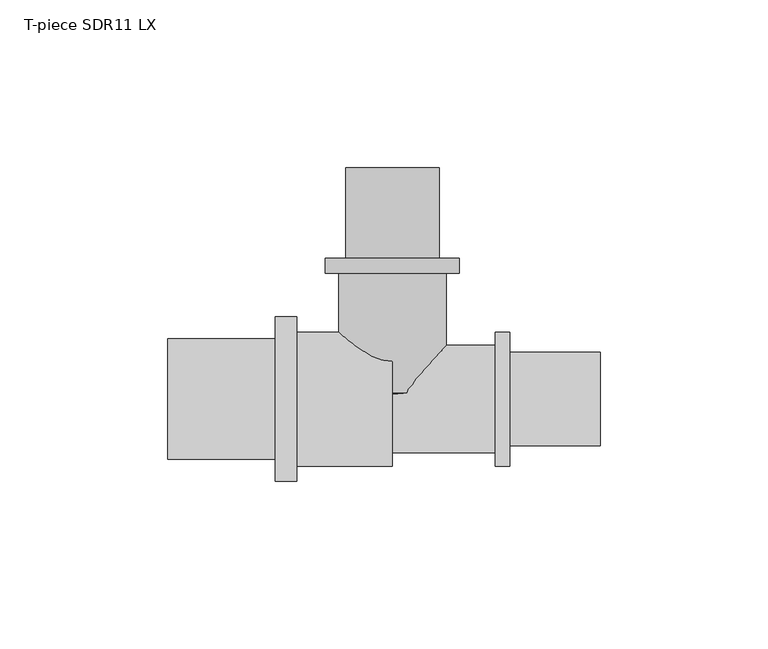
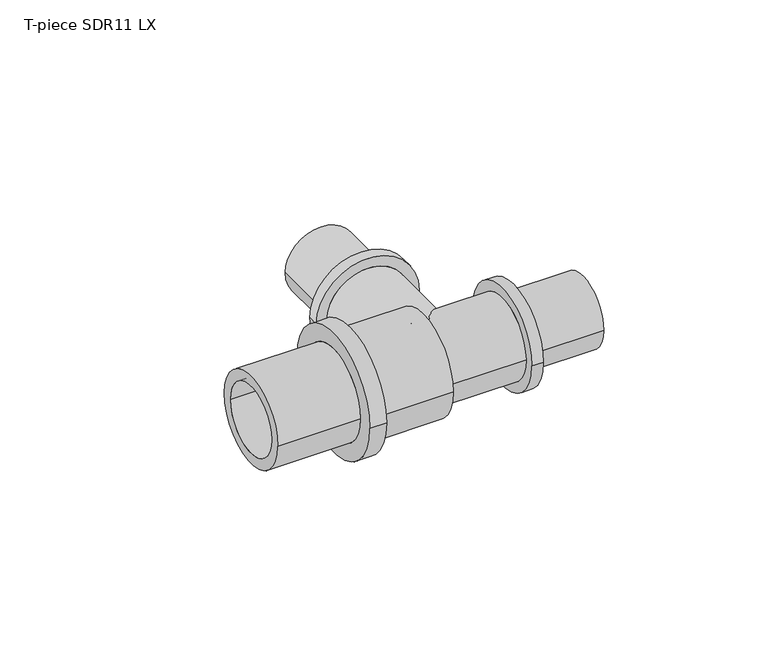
"""IFC4 building model written with IfcOpenShell, lengths in millimetres: pipe fitting geometry, T-piece SDR11 LX : T-piece LX SDR11 LX."""

from ifc_helpers import new_model, si_unit, point, frame, origin, place, context, project, spatial, polyline, circle_curve, ellipse_curve, trimmed, source, transform, mapped, element, save
from ifc_brep_helpers import plane_surface, cylinder_surface, revolved_surface, advanced_brep


def t_piece_sdr11_lx_0c38f34f(model_context):
    return source(origin(), model_context, "Body", "AdvancedBrep", [
        advanced_brep(
        [(16.0, 1.856228, 0.0), (-16.0, 1.856228, 0.0), (-16.0, 37.5, 0.0), (16.0, 37.5, 0.0), (11.2, 69.0, 0.0), (-11.2, 69.0, 0.0), (-11.2, 0.0, 0.0), (11.2, 0.0, 0.0), (13.95, 42.0, 0.0), (-13.95, 42.0, 0.0), (-13.95, 69.0, 0.0), (13.95, 69.0, 0.0), (20.0, 37.5, 0.0), (-20.0, 37.5, 0.0), (-20.0, 42.0, 0.0), (20.0, 42.0, 0.0)],
        [
            (0, 1, circle_curve(frame((0.0, 1.856228, 0.0), z_axis=(0.0, 1.0, 0.0), x_axis=(-1.0, 0.0, 0.0)), 16.0)),
            (1, 2),
            (2, 3, circle_curve(frame((0.0, 37.5, 0.0), z_axis=(0.0, -1.0, 0.0), x_axis=(-1.0, 0.0, 0.0)), 16.0)),
            (3, 0),
            (4, 5, circle_curve(frame((0.0, 69.0, 0.0), z_axis=(0.0, 1.0, 0.0), x_axis=(-1.0, 0.0, 0.0)), 11.2)),
            (5, 6),
            (6, 7, circle_curve(frame((0.0, 0.0, 0.0), z_axis=(0.0, -1.0, 0.0), x_axis=(-1.0, 0.0, 0.0)), 11.2)),
            (7, 4),
            (8, 9, circle_curve(frame((0.0, 42.0, 0.0), z_axis=(0.0, 1.0, 0.0), x_axis=(-1.0, 0.0, 0.0)), 13.95)),
            (9, 10),
            (10, 11, circle_curve(frame((0.0, 69.0, 0.0), z_axis=(0.0, -1.0, 0.0), x_axis=(-1.0, 0.0, 0.0)), 13.95)),
            (11, 8),
            (12, 13, circle_curve(frame((0.0, 37.5, 0.0), z_axis=(0.0, 1.0, 0.0), x_axis=(-1.0, 0.0, 0.0)), 20.0)),
            (13, 14),
            (14, 15, circle_curve(frame((0.0, 42.0, 0.0), z_axis=(0.0, -1.0, 0.0), x_axis=(-1.0, 0.0, 0.0)), 20.0)),
            (15, 12),
            (12, 13, circle_curve(frame((0.0, 37.5, 0.0), z_axis=(0.0, -1.0, 0.0), x_axis=(1.0, 0.0, 0.0)), 20.0)),
            (2, 3, circle_curve(frame((0.0, 37.5, 0.0), z_axis=(0.0, 1.0, 0.0), x_axis=(1.0, 0.0, 0.0)), 16.0)),
            (1, 0, circle_curve(frame((0.0, 1.856228, 0.0), z_axis=(0.0, 1.0, 0.0), x_axis=(1.0, 0.0, 0.0)), 16.0)),
            (5, 4, circle_curve(frame((0.0, 69.0, 0.0), z_axis=(0.0, 1.0, 0.0), x_axis=(1.0, 0.0, 0.0)), 11.2)),
            (7, 6, circle_curve(frame((0.0, 0.0, 0.0), z_axis=(0.0, -1.0, 0.0), x_axis=(1.0, 0.0, 0.0)), 11.2)),
            (10, 11, circle_curve(frame((0.0, 69.0, 0.0), z_axis=(0.0, 1.0, 0.0), x_axis=(1.0, 0.0, 0.0)), 13.95)),
            (9, 8, circle_curve(frame((0.0, 42.0, 0.0), z_axis=(0.0, 1.0, 0.0), x_axis=(1.0, 0.0, 0.0)), 13.95)),
            (14, 15, circle_curve(frame((0.0, 42.0, 0.0), z_axis=(0.0, 1.0, 0.0), x_axis=(1.0, 0.0, 0.0)), 20.0)),
            (6, 1, circle_curve(frame((-6.4462802, 19.4268409, 0.0), z_axis=(0.0, 0.0, -1.0), x_axis=(0.0, -1.0, 0.0)), 20.0)),
            (0, 7, circle_curve(frame((6.4462802, 19.4268409, 0.0), z_axis=(0.0, 0.0, -1.0), x_axis=(0.0, -1.0, 0.0)), 20.0)),
        ],
        [
            cylinder_surface(frame((0.0, 0.0, 0.0), z_axis=(0.0, -1.0, 0.0), x_axis=(-1.0, 0.0, 0.0)), 16.0),
            revolved_surface(polyline([(-11.2, 0.0, 0.0), (-11.2, 69.0, 0.0)]), (0.0, 0.0, 0.0), (0.0, -1.0, 0.0)),
            cylinder_surface(frame((0.0, 0.0, 0.0), z_axis=(0.0, -1.0, 0.0), x_axis=(-1.0, 0.0, 0.0)), 13.95),
            cylinder_surface(frame((0.0, 0.0, 0.0), z_axis=(0.0, -1.0, 0.0), x_axis=(-1.0, 0.0, 0.0)), 20.0),
            plane_surface(frame((0.0, 37.5, 0.0), z_axis=(0.0, -1.0, 0.0), x_axis=(1.0, 0.0, 0.0))),
            cylinder_surface(frame((0.0, 0.0, 0.0), z_axis=(0.0, -1.0, 0.0), x_axis=(1.0, 0.0, 0.0)), 16.0),
            revolved_surface(polyline([(11.2, 0.0, 0.0), (11.2, 69.0, 0.0)]), (0.0, 0.0, 0.0), (0.0, -1.0, 0.0)),
            plane_surface(frame((0.0, 69.0, 0.0), z_axis=(0.0, 1.0, 0.0), x_axis=(1.0, 0.0, 0.0))),
            cylinder_surface(frame((0.0, 0.0, 0.0), z_axis=(0.0, -1.0, 0.0), x_axis=(1.0, 0.0, 0.0)), 13.95),
            plane_surface(frame((0.0, 42.0, 0.0), z_axis=(0.0, 1.0, 0.0), x_axis=(1.0, 0.0, 0.0))),
            cylinder_surface(frame((0.0, 0.0, 0.0), z_axis=(0.0, -1.0, 0.0), x_axis=(1.0, 0.0, 0.0)), 20.0),
            revolved_surface(trimmed(ellipse_curve(frame((-6.4462802, 19.4268409, 0.0), z_axis=(0.0, 0.0, 1.0), x_axis=(0.0, -1.0, 0.0)), 20.0, 20.0), [point((-16.0, 1.856228, 0.0))], [point((-11.2, 0.0, 0.0))], True, "CARTESIAN"), (0.0, 0.0, 0.0), (0.0, -1.0, 0.0)),
            revolved_surface(trimmed(ellipse_curve(frame((6.4462802, 19.4268409, 0.0), z_axis=(0.0, 0.0, -1.0), x_axis=(0.0, -1.0, 0.0)), 20.0, 20.0), [point((16.0, 1.856228, 0.0))], [point((11.2, 0.0, 0.0))], True, "CARTESIAN"), (0.0, 0.0, 0.0), (0.0, -1.0, 0.0)),
        ],
        [
            (0, [[1, 2, 3, 4]]),
            (1, [[5, 6, 7, 8]]),
            (2, [[9, 10, 11, 12]]),
            (3, [[13, 14, 15, 16]]),
            (4, [[17, -13], [18, -3]]),
            (5, [[19, -4, -18, -2]]),
            (6, [[20, -8, 21, -6]]),
            (7, [[22, -11], [-20, -5]]),
            (8, [[23, -12, -22, -10]]),
            (9, [[24, -15], [-23, -9]]),
            (10, [[-17, -16, -24, -14]]),
            (11, [[-7, 25, -1, 26]]),
            (12, [[-21, -26, -19, -25]]),
        ],
    ),
        advanced_brep(
        [(30.6, 16.0, 0.0), (30.6, -16.0, 0.0), (0.0, -16.0, 0.0), (0.0, 16.0, 0.0), (0.0, 11.2, 0.0), (0.0, -11.2, 0.0), (62.0, -11.2, 0.0), (62.0, 11.2, 0.0), (62.0, 13.95, 0.0), (62.0, -13.95, 0.0), (35.0, -13.95, 0.0), (35.0, 13.95, 0.0), (35.0, 20.0, 0.0), (35.0, -20.0, 0.0), (30.6, -20.0, 0.0), (30.6, 20.0, 0.0)],
        [
            (0, 1, circle_curve(frame((30.6, 0.0, 0.0), z_axis=(-1.0, 0.0, 0.0), x_axis=(0.0, -1.0, 0.0)), 16.0)),
            (1, 2),
            (2, 3, circle_curve(frame((0.0, 0.0, 0.0), z_axis=(1.0, 0.0, 0.0), x_axis=(0.0, -1.0, 0.0)), 16.0)),
            (3, 0),
            (4, 5, circle_curve(frame((0.0, 0.0, 0.0), z_axis=(-1.0, 0.0, 0.0), x_axis=(0.0, -1.0, 0.0)), 11.2)),
            (5, 6),
            (6, 7, circle_curve(frame((62.0, 0.0, 0.0), z_axis=(1.0, 0.0, 0.0), x_axis=(0.0, -1.0, 0.0)), 11.2)),
            (7, 4),
            (8, 9, circle_curve(frame((62.0, 0.0, 0.0), z_axis=(-1.0, 0.0, 0.0), x_axis=(0.0, -1.0, 0.0)), 13.95)),
            (9, 10),
            (10, 11, circle_curve(frame((35.0, 0.0, 0.0), z_axis=(1.0, 0.0, 0.0), x_axis=(0.0, -1.0, 0.0)), 13.95)),
            (11, 8),
            (12, 13, circle_curve(frame((35.0, 0.0, 0.0), z_axis=(-1.0, 0.0, 0.0), x_axis=(0.0, -1.0, 0.0)), 20.0)),
            (13, 14),
            (14, 15, circle_curve(frame((30.6, 0.0, 0.0), z_axis=(1.0, 0.0, 0.0), x_axis=(0.0, -1.0, 0.0)), 20.0)),
            (15, 12),
            (14, 15, circle_curve(frame((30.6, 0.0, 0.0), z_axis=(-1.0, 0.0, 0.0), x_axis=(0.0, 1.0, 0.0)), 20.0)),
            (0, 1, circle_curve(frame((30.6, 0.0, 0.0), z_axis=(1.0, 0.0, 0.0), x_axis=(0.0, 1.0, 0.0)), 16.0)),
            (3, 2, circle_curve(frame((0.0, 0.0, 0.0), z_axis=(1.0, 0.0, 0.0), x_axis=(0.0, 1.0, 0.0)), 16.0)),
            (4, 5, circle_curve(frame((0.0, 0.0, 0.0), z_axis=(1.0, 0.0, 0.0), x_axis=(0.0, 1.0, 0.0)), 11.2)),
            (7, 6, circle_curve(frame((62.0, 0.0, 0.0), z_axis=(1.0, 0.0, 0.0), x_axis=(0.0, 1.0, 0.0)), 11.2)),
            (8, 9, circle_curve(frame((62.0, 0.0, 0.0), z_axis=(1.0, 0.0, 0.0), x_axis=(0.0, 1.0, 0.0)), 13.95)),
            (11, 10, circle_curve(frame((35.0, 0.0, 0.0), z_axis=(1.0, 0.0, 0.0), x_axis=(0.0, 1.0, 0.0)), 13.95)),
            (12, 13, circle_curve(frame((35.0, 0.0, 0.0), z_axis=(1.0, 0.0, 0.0), x_axis=(0.0, 1.0, 0.0)), 20.0)),
        ],
        [
            cylinder_surface(frame((0.0, 0.0, 0.0), z_axis=(1.0, 0.0, 0.0), x_axis=(0.0, -1.0, 0.0)), 16.0),
            revolved_surface(polyline([(62.0, -11.2, 0.0), (0.0, -11.2, 0.0)]), (0.0, 0.0, 0.0), (1.0, 0.0, 0.0)),
            cylinder_surface(frame((0.0, 0.0, 0.0), z_axis=(1.0, 0.0, 0.0), x_axis=(0.0, -1.0, 0.0)), 13.95),
            cylinder_surface(frame((0.0, 0.0, 0.0), z_axis=(1.0, 0.0, 0.0), x_axis=(0.0, -1.0, 0.0)), 20.0),
            plane_surface(frame((30.6, 0.0, 0.0), z_axis=(-1.0, 0.0, 0.0), x_axis=(0.0, 1.0, 0.0))),
            cylinder_surface(frame((0.0, 0.0, 0.0), z_axis=(1.0, 0.0, 0.0), x_axis=(0.0, 1.0, 0.0)), 16.0),
            plane_surface(frame((0.0, 0.0, 0.0), z_axis=(-1.0, 0.0, 0.0), x_axis=(0.0, 1.0, 0.0))),
            revolved_surface(polyline([(62.0, 11.2, 0.0), (0.0, 11.2, 0.0)]), (0.0, 0.0, 0.0), (1.0, 0.0, 0.0)),
            plane_surface(frame((62.0, 0.0, 0.0), z_axis=(1.0, 0.0, 0.0), x_axis=(0.0, 1.0, 0.0))),
            cylinder_surface(frame((0.0, 0.0, 0.0), z_axis=(1.0, 0.0, 0.0), x_axis=(0.0, 1.0, 0.0)), 13.95),
            plane_surface(frame((35.0, 0.0, 0.0), z_axis=(1.0, 0.0, 0.0), x_axis=(0.0, 1.0, 0.0))),
            cylinder_surface(frame((0.0, 0.0, 0.0), z_axis=(1.0, 0.0, 0.0), x_axis=(0.0, 1.0, 0.0)), 20.0),
        ],
        [
            (0, [[1, 2, 3, 4]]),
            (1, [[5, 6, 7, 8]]),
            (2, [[9, 10, 11, 12]]),
            (3, [[13, 14, 15, 16]]),
            (4, [[17, -15], [18, -1]]),
            (5, [[-18, -4, 19, -2]]),
            (6, [[-19, -3], [20, -5]]),
            (7, [[-20, -8, 21, -6]]),
            (8, [[22, -9], [-21, -7]]),
            (9, [[-22, -12, 23, -10]]),
            (10, [[24, -13], [-23, -11]]),
            (11, [[-24, -16, -17, -14]]),
        ],
    ),
        advanced_brep(
        [(0.0, 20.0, 0.0), (0.0, -20.0, 0.0), (-28.5, -20.0, 0.0), (-28.5, 20.0, 0.0), (-67.0, 13.75, 0.0), (-67.0, -13.75, 0.0), (0.0, -13.75, 0.0), (0.0, 13.75, 0.0), (-35.0, 18.0, 0.0), (-35.0, -18.0, 0.0), (-67.0, -18.0, 0.0), (-67.0, 18.0, 0.0), (-28.5, 24.5, 0.0), (-28.5, -24.5, 0.0), (-35.0, -24.5, 0.0), (-35.0, 24.5, 0.0)],
        [
            (0, 1, circle_curve(frame((0.0, 0.0, 0.0), z_axis=(-1.0, 0.0, 0.0), x_axis=(0.0, -1.0, 0.0)), 20.0)),
            (1, 2),
            (2, 3, circle_curve(frame((-28.5, 0.0, 0.0), z_axis=(1.0, 0.0, 0.0), x_axis=(0.0, -1.0, 0.0)), 20.0)),
            (3, 0),
            (4, 5, circle_curve(frame((-67.0, 0.0, 0.0), z_axis=(-1.0, 0.0, 0.0), x_axis=(0.0, -1.0, 0.0)), 13.75)),
            (5, 6),
            (6, 7, circle_curve(frame((0.0, 0.0, 0.0), z_axis=(1.0, 0.0, 0.0), x_axis=(0.0, -1.0, 0.0)), 13.75)),
            (7, 4),
            (8, 9, circle_curve(frame((-35.0, 0.0, 0.0), z_axis=(-1.0, 0.0, 0.0), x_axis=(0.0, -1.0, 0.0)), 18.0)),
            (9, 10),
            (10, 11, circle_curve(frame((-67.0, 0.0, 0.0), z_axis=(1.0, 0.0, 0.0), x_axis=(0.0, -1.0, 0.0)), 18.0)),
            (11, 8),
            (12, 13, circle_curve(frame((-28.5, 0.0, 0.0), z_axis=(-1.0, 0.0, 0.0), x_axis=(0.0, -1.0, 0.0)), 24.5)),
            (13, 14),
            (14, 15, circle_curve(frame((-35.0, 0.0, 0.0), z_axis=(1.0, 0.0, 0.0), x_axis=(0.0, -1.0, 0.0)), 24.5)),
            (15, 12),
            (12, 13, circle_curve(frame((-28.5, 0.0, 0.0), z_axis=(1.0, 0.0, 0.0), x_axis=(0.0, 1.0, 0.0)), 24.5)),
            (2, 3, circle_curve(frame((-28.5, 0.0, 0.0), z_axis=(-1.0, 0.0, 0.0), x_axis=(0.0, 1.0, 0.0)), 20.0)),
            (1, 0, circle_curve(frame((0.0, 0.0, 0.0), z_axis=(-1.0, 0.0, 0.0), x_axis=(0.0, 1.0, 0.0)), 20.0)),
            (6, 7, circle_curve(frame((0.0, 0.0, 0.0), z_axis=(-1.0, 0.0, 0.0), x_axis=(0.0, 1.0, 0.0)), 13.75)),
            (5, 4, circle_curve(frame((-67.0, 0.0, 0.0), z_axis=(-1.0, 0.0, 0.0), x_axis=(0.0, 1.0, 0.0)), 13.75)),
            (10, 11, circle_curve(frame((-67.0, 0.0, 0.0), z_axis=(-1.0, 0.0, 0.0), x_axis=(0.0, 1.0, 0.0)), 18.0)),
            (9, 8, circle_curve(frame((-35.0, 0.0, 0.0), z_axis=(-1.0, 0.0, 0.0), x_axis=(0.0, 1.0, 0.0)), 18.0)),
            (14, 15, circle_curve(frame((-35.0, 0.0, 0.0), z_axis=(-1.0, 0.0, 0.0), x_axis=(0.0, 1.0, 0.0)), 24.5)),
        ],
        [
            cylinder_surface(frame((0.0, 0.0, 0.0), z_axis=(1.0, 0.0, 0.0), x_axis=(0.0, -1.0, 0.0)), 20.0),
            revolved_surface(polyline([(0.0, -13.75, 0.0), (-67.0, -13.75, 0.0)]), (0.0, 0.0, 0.0), (1.0, 0.0, 0.0)),
            cylinder_surface(frame((0.0, 0.0, 0.0), z_axis=(1.0, 0.0, 0.0), x_axis=(0.0, -1.0, 0.0)), 18.0),
            cylinder_surface(frame((0.0, 0.0, 0.0), z_axis=(1.0, 0.0, 0.0), x_axis=(0.0, -1.0, 0.0)), 24.5),
            plane_surface(frame((-28.5, 0.0, 0.0), z_axis=(1.0, 0.0, 0.0), x_axis=(0.0, 1.0, 0.0))),
            cylinder_surface(frame((0.0, 0.0, 0.0), z_axis=(1.0, 0.0, 0.0), x_axis=(0.0, 1.0, 0.0)), 20.0),
            plane_surface(frame((0.0, 0.0, 0.0), z_axis=(1.0, 0.0, 0.0), x_axis=(0.0, 1.0, 0.0))),
            revolved_surface(polyline([(0.0, 13.75, 0.0), (-67.0, 13.75, 0.0)]), (0.0, 0.0, 0.0), (1.0, 0.0, 0.0)),
            plane_surface(frame((-67.0, 0.0, 0.0), z_axis=(-1.0, 0.0, 0.0), x_axis=(0.0, 1.0, 0.0))),
            cylinder_surface(frame((0.0, 0.0, 0.0), z_axis=(1.0, 0.0, 0.0), x_axis=(0.0, 1.0, 0.0)), 18.0),
            plane_surface(frame((-35.0, 0.0, 0.0), z_axis=(-1.0, 0.0, 0.0), x_axis=(0.0, 1.0, 0.0))),
            cylinder_surface(frame((0.0, 0.0, 0.0), z_axis=(1.0, 0.0, 0.0), x_axis=(0.0, 1.0, 0.0)), 24.5),
        ],
        [
            (0, [[1, 2, 3, 4]]),
            (1, [[5, 6, 7, 8]]),
            (2, [[9, 10, 11, 12]]),
            (3, [[13, 14, 15, 16]]),
            (4, [[17, -13], [18, -3]]),
            (5, [[19, -4, -18, -2]]),
            (6, [[-19, -1], [20, -7]]),
            (7, [[21, -8, -20, -6]]),
            (8, [[22, -11], [-21, -5]]),
            (9, [[23, -12, -22, -10]]),
            (10, [[24, -15], [-23, -9]]),
            (11, [[-17, -16, -24, -14]]),
        ],
    ),
    ])


if __name__ == "__main__":
    model = new_model("IFC4")
    model_context = context("Model", 3, world=origin())
    ifc_project = project(units=[si_unit("LENGTHUNIT", "METRE", prefix="MILLI")], contexts=[model_context])
    site = spatial("IfcSite", under=ifc_project)
    building = spatial("IfcBuilding", under=site)
    placement = place(None, origin())
    t_piece_sdr11_lx_shape = t_piece_sdr11_lx_0c38f34f(model_context)
    element("IfcPipeFitting", 1, ObjectType="T-piece SDR11 LX : T-piece LX SDR11 LX", at=placement, inside=building, context=model_context, shape_type="MappedRepresentation", body=[
        mapped(t_piece_sdr11_lx_shape, transform((0.0, 0.0, 0.0), x_axis=(1.0, 0.0, 0.0), y_axis=(0.0, 1.0, 0.0), z_axis=(0.0, 0.0, 1.0))),
    ])
    save(model, "model.ifc")
